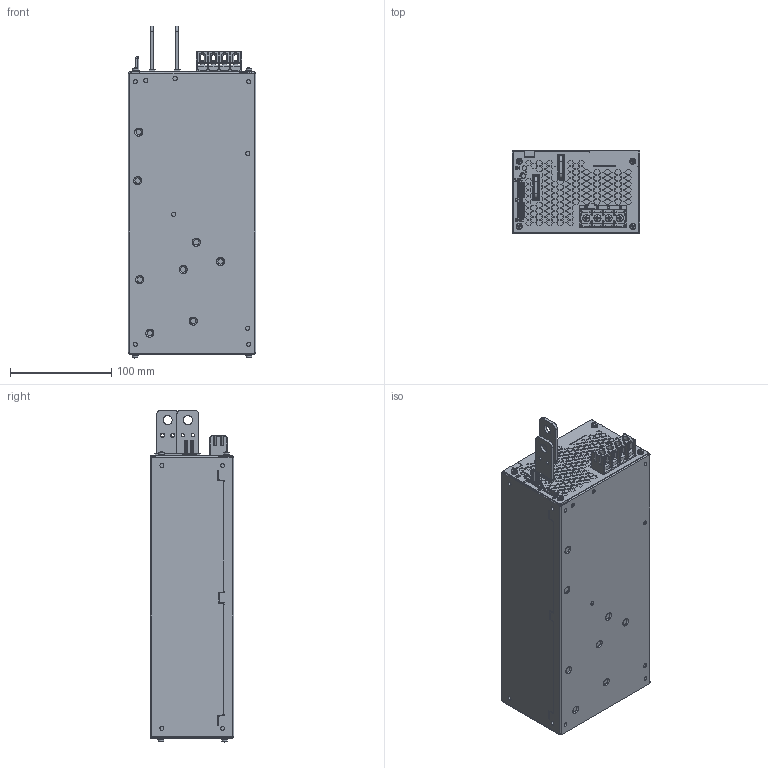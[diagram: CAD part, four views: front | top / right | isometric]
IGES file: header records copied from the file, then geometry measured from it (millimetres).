
Start section: SolidWorks IGES file using analytic representation for surfaces
Global section: file name: C:\HWS1800T_OUTLINE.IGS; native system: SolidWorks 2010; preprocessor: SolidWorks 2010; author: nag_spsrd_cad08; date: 100621.113540; units: millimetre
Bounding box: 126.5 x 82.5 x 328.55 mm (x, y, z)
Surface area: 166872.1 mm2 (no closed solid volume)
Topology: 0 solids, 0 shells, 4888 faces, 35949 edges, 35923 vertices
Faces by surface type: bspline 4141, revolution 747
